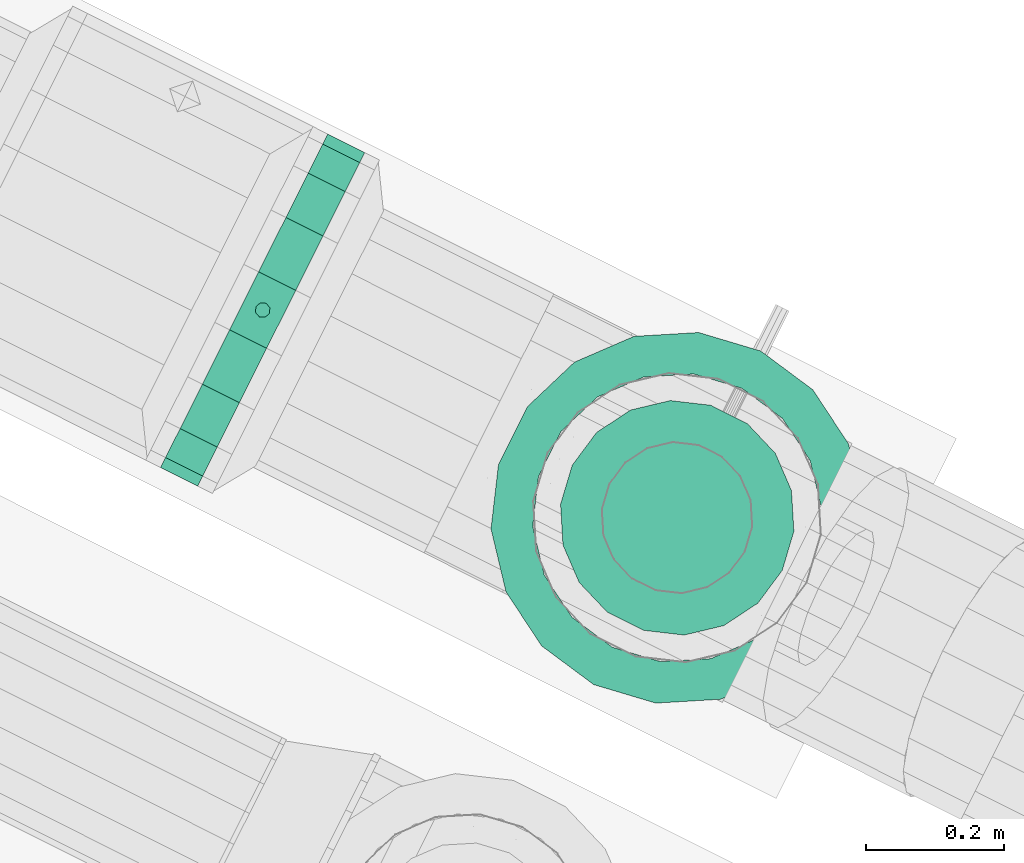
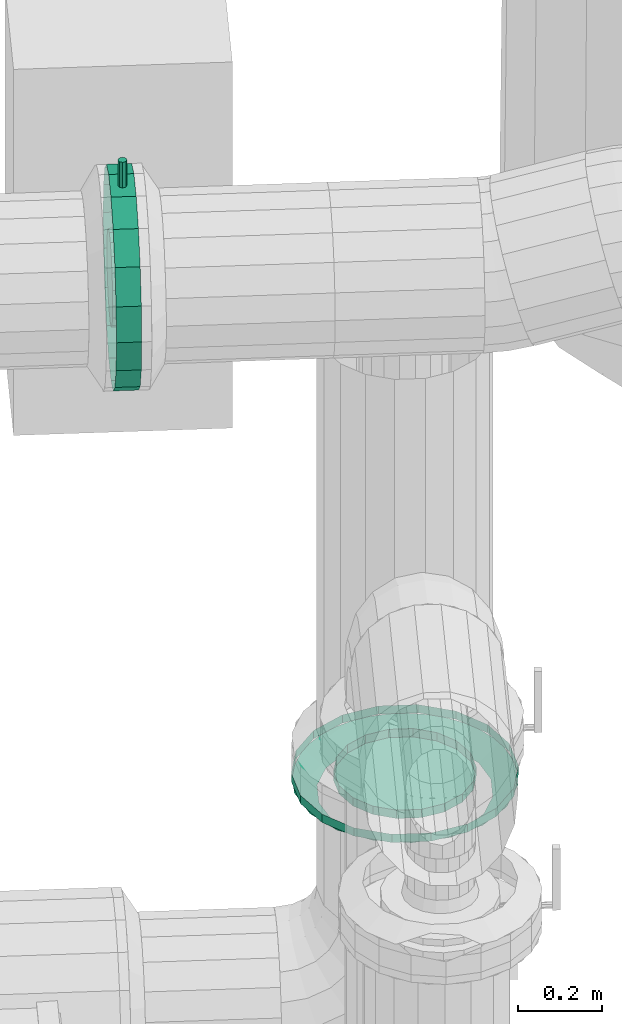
# One storey, part 139 of 152: 1 flow controller, 1 flow fitting.
"""IFC2X3 building model written with IfcOpenShell, lengths in metres."""

from ifc_helpers import new_model, si_unit, derived_unit, direction, frame, origin, place, context, subcontext, project, spatial, face_set, surface_model, source, transform, mapped, material, type_object, type_shapes, element, save


model = new_model("IFC2X3")

# Units and contexts
model_context = context("Model", 3, precision=5.2338327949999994e-05, world=origin(), true_north=direction((0.0, 1.0)))
body_context = subcontext(model_context, "Body", "Model", "MODEL_VIEW")
ifc_project = project(units=[si_unit("LENGTHUNIT", "METRE"), si_unit("AREAUNIT", "SQUARE_METRE"), si_unit("VOLUMEUNIT", "CUBIC_METRE"), si_unit("MASSUNIT", "GRAM", prefix="KILO"), si_unit("PLANEANGLEUNIT", "RADIAN"), derived_unit("THERMALTRANSMITTANCEUNIT", [(si_unit("MASSUNIT", "GRAM", prefix="KILO"), 1), (si_unit("THERMODYNAMICTEMPERATUREUNIT", "KELVIN"), -1), (si_unit("TIMEUNIT", "SECOND"), -3)])], contexts=[model_context])

# Site, building, storey
site_placement = place(None, frame((0.0, 0.0, 0.0), z_axis=(0.0, 0.0, 1.0), x_axis=(0.8939966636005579, -0.4480736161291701, 0.0)))
site = spatial("IfcSite", under=ifc_project, at=site_placement, Name="Default", CompositionType="ELEMENT")
building_placement = place(site_placement, origin())
building = spatial("IfcBuilding", under=site, at=building_placement, CompositionType="ELEMENT")
storey_placement = place(building_placement, frame((0.0, 0.0, 2.7499999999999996)))
storey = spatial("IfcBuildingStorey", under=building, at=storey_placement, Name="1. Obergeschoss", CompositionType="ELEMENT", Elevation=2.7499999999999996)

# Flow controller
ifc_material = material(Name="IfcSurfaceStyle #1741")
distribution_element_type_1 = type_object("IfcDistributionElementType", Name="Zwischenflanschklappe 5636:Zwischenflanschklappe 5636", material=ifc_material)
shared_shape_1 = source(origin(), body_context, "Body", "SurfaceModel", [
    surface_model("IfcFaceBasedSurfaceModel", [(11.084653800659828, 7.894708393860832, 5.553956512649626), (11.084653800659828, 7.901794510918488, 5.594143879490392), (11.064653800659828, 7.901794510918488, 5.594143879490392), (11.064653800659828, 7.894708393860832, 5.553956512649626), (11.084653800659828, 7.922198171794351, 5.6294840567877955), (11.064653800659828, 7.922198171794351, 5.6294840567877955), (11.084653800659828, 7.953458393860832, 5.6557144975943), (11.064653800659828, 7.953458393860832, 5.6557144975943), (11.084653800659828, 7.991804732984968, 5.669671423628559), (11.064653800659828, 7.991804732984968, 5.669671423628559), (11.084653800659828, 8.032612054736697, 5.66967142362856), (11.064653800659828, 8.032612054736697, 5.66967142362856), (11.084653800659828, 8.070958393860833, 5.655714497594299), (11.064653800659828, 8.070958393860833, 5.655714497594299), (11.084653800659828, 8.102218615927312, 5.629484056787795), (11.064653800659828, 8.102218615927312, 5.629484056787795), (11.084653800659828, 8.122622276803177, 5.594143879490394), (11.064653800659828, 8.122622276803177, 5.594143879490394), (11.084653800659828, 8.129708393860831, 5.553956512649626), (11.064653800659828, 8.129708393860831, 5.553956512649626), (11.084653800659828, 8.122622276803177, 5.51376914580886), (11.064653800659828, 8.122622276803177, 5.51376914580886), (11.084653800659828, 8.102218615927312, 5.478428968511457), (11.064653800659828, 8.102218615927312, 5.478428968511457), (11.084653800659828, 8.070958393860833, 5.452198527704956), (11.064653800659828, 8.070958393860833, 5.452198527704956), (11.084653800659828, 8.032612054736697, 5.438241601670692), (11.064653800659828, 8.032612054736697, 5.438241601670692), (11.084653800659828, 7.991804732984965, 5.438241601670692), (11.064653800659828, 7.991804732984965, 5.438241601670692), (11.084653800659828, 7.9534583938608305, 5.4521985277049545), (11.064653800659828, 7.9534583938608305, 5.4521985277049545), (11.084653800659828, 7.922198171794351, 5.478428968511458), (11.064653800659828, 7.922198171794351, 5.478428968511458), (11.084653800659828, 7.901794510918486, 5.51376914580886), (11.064653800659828, 7.901794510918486, 5.51376914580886), (11.084653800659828, 8.012208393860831, 5.553956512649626), (11.064653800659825, 8.012208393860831, 5.553956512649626), (11.064653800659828, 7.842208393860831, 5.553956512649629), (11.064653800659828, 7.852460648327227, 5.61209993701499), (11.044653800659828, 7.852460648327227, 5.61209993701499), (11.044653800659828, 7.842208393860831, 5.553956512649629), (11.064653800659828, 7.881980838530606, 5.663230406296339), (11.044653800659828, 7.881980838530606, 5.663230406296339), (11.064653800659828, 7.927208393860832, 5.701180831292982), (11.044653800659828, 7.927208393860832, 5.701180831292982), (11.064653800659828, 7.982688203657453, 5.721373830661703), (11.044653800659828, 7.982688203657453, 5.721373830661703), (11.064653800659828, 8.041728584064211, 5.721373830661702), (11.044653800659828, 8.041728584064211, 5.721373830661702), (11.064653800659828, 8.097208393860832, 5.701180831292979), (11.044653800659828, 8.097208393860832, 5.701180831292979), (11.064653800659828, 8.142435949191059, 5.6632304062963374), (11.044653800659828, 8.142435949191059, 5.6632304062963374), (11.064653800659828, 8.171956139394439, 5.612099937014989), (11.044653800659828, 8.171956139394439, 5.612099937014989), (11.064653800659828, 8.182208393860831, 5.553956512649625), (11.044653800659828, 8.182208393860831, 5.553956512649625), (11.064653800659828, 8.171956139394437, 5.495813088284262), (11.044653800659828, 8.171956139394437, 5.495813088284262), (11.064653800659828, 8.142435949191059, 5.444682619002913), (11.044653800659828, 8.142435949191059, 5.444682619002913), (11.064653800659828, 8.09720839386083, 5.406732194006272), (11.044653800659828, 8.09720839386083, 5.406732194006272), (11.064653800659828, 8.04172858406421, 5.386539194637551), (11.044653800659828, 8.04172858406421, 5.386539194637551), (11.064653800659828, 7.982688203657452, 5.386539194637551), (11.044653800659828, 7.982688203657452, 5.386539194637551), (11.064653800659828, 7.927208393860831, 5.406732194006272), (11.044653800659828, 7.927208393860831, 5.406732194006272), (11.064653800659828, 7.881980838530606, 5.444682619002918), (11.044653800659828, 7.881980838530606, 5.444682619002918), (11.064653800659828, 7.852460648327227, 5.4958130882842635), (11.044653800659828, 7.852460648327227, 5.4958130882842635), (11.044653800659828, 8.012208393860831, 5.553956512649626), (11.044653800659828, 7.89470839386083, 5.553956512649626), (11.044653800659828, 7.901794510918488, 5.594143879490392), (11.024653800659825, 7.901794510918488, 5.594143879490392), (11.024653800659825, 7.89470839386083, 5.553956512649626), (11.044653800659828, 7.922198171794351, 5.6294840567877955), (11.024653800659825, 7.922198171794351, 5.6294840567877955), (11.044653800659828, 7.953458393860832, 5.6557144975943), (11.024653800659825, 7.953458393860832, 5.6557144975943), (11.044653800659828, 7.991804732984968, 5.669671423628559), (11.024653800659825, 7.991804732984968, 5.669671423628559), (11.044653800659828, 8.032612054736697, 5.66967142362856), (11.024653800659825, 8.032612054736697, 5.66967142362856), (11.044653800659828, 8.070958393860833, 5.655714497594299), (11.024653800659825, 8.070958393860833, 5.655714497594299), (11.044653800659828, 8.102218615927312, 5.629484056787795), (11.024653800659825, 8.102218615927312, 5.629484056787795), (11.044653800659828, 8.122622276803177, 5.594143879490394), (11.024653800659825, 8.122622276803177, 5.594143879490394), (11.044653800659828, 8.129708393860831, 5.553956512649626), (11.024653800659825, 8.129708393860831, 5.553956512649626), (11.044653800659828, 8.122622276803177, 5.51376914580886), (11.024653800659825, 8.122622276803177, 5.51376914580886), (11.044653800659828, 8.102218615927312, 5.478428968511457), (11.024653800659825, 8.102218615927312, 5.478428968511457), (11.044653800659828, 8.070958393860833, 5.452198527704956), (11.024653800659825, 8.070958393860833, 5.452198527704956), (11.044653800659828, 8.032612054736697, 5.438241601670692), (11.024653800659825, 8.032612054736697, 5.438241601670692), (11.044653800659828, 7.991804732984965, 5.438241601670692), (11.024653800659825, 7.991804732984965, 5.438241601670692), (11.044653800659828, 7.9534583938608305, 5.4521985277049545), (11.024653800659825, 7.9534583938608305, 5.4521985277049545), (11.044653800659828, 7.922198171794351, 5.478428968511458), (11.024653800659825, 7.922198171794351, 5.478428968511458), (11.044653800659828, 7.901794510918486, 5.51376914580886), (11.024653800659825, 7.901794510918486, 5.51376914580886), (11.024653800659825, 8.012208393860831, 5.553956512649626), (11.054653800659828, 8.00220839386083, 5.553956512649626), (11.058074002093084, 8.002811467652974, 5.553956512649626), (11.058074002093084, 8.002811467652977, 5.808956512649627), (11.054653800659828, 8.002208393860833, 5.808956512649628), (11.061081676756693, 8.004547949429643, 5.553956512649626), (11.061081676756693, 8.004547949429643, 5.808956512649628), (11.06331405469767, 8.007208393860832, 5.553956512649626), (11.063314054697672, 8.007208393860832, 5.808956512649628), (11.064501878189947, 8.010471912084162, 5.553956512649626), (11.064501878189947, 8.010471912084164, 5.808956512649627), (11.064501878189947, 8.013944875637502, 5.553956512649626), (11.064501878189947, 8.013944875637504, 5.808956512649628), (11.06331405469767, 8.017208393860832, 5.553956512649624), (11.06331405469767, 8.017208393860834, 5.808956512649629), (11.061081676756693, 8.019868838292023, 5.553956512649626), (11.061081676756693, 8.019868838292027, 5.808956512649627), (11.058074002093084, 8.021605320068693, 5.553956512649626), (11.058074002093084, 8.021605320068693, 5.808956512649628), (11.054653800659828, 8.02220839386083, 5.553956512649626), (11.054653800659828, 8.022208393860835, 5.808956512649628), (11.05123359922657, 8.021605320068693, 5.553956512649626), (11.05123359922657, 8.021605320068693, 5.808956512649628), (11.048225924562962, 8.019868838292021, 5.553956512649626), (11.048225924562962, 8.019868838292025, 5.808956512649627), (11.045993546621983, 8.017208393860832, 5.553956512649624), (11.045993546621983, 8.017208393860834, 5.808956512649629), (11.044805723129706, 8.013944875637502, 5.553956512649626), (11.044805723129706, 8.013944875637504, 5.808956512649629), (11.044805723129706, 8.010471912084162, 5.553956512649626), (11.044805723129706, 8.010471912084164, 5.808956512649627), (11.045993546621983, 8.007208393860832, 5.553956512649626), (11.045993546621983, 8.007208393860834, 5.808956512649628), (11.048225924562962, 8.004547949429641, 5.553956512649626), (11.048225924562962, 8.004547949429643, 5.808956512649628), (11.05123359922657, 8.002811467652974, 5.553956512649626), (11.05123359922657, 8.002811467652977, 5.808956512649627), (11.054653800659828, 8.012208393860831, 5.553956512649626), (11.054653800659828, 8.012208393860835, 5.808956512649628), (11.054653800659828, 8.001253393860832, 5.808956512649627), (11.062400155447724, 8.004462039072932, 5.808956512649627), (11.062400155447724, 8.004462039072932, 5.893956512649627), (11.054653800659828, 8.001253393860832, 5.893956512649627), (11.065608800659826, 8.012208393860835, 5.808956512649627), (11.065608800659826, 8.012208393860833, 5.893956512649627), (11.062400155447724, 8.019954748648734, 5.808956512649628), (11.062400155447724, 8.019954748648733, 5.893956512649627), (11.054653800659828, 8.023163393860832, 5.808956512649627), (11.054653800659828, 8.023163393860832, 5.893956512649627), (11.046907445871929, 8.019954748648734, 5.808956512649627), (11.046907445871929, 8.019954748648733, 5.893956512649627), (11.043698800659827, 8.012208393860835, 5.808956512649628), (11.043698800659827, 8.012208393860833, 5.893956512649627), (11.046907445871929, 8.004462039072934, 5.808956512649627), (11.046907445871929, 8.004462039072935, 5.893956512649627), (11.054653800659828, 8.012208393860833, 5.893956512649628), (11.084653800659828, 7.742208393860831, 5.553956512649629), (11.084653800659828, 7.758491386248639, 5.646301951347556), (11.024653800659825, 7.758491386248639, 5.646301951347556), (11.024653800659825, 7.742208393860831, 5.553956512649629), (11.084653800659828, 7.805376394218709, 5.7275091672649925), (11.024653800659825, 7.805376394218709, 5.7275091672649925), (11.084653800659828, 7.877208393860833, 5.787783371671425), (11.024653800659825, 7.877208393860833, 5.787783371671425), (11.084653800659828, 7.965323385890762, 5.819854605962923), (11.024653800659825, 7.965323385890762, 5.819854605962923), (11.084653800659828, 8.059093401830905, 5.819854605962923), (11.024653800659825, 8.059093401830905, 5.819854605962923), (11.084653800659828, 8.147208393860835, 5.787783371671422), (11.024653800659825, 8.147208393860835, 5.787783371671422), (11.084653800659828, 8.219040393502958, 5.72750916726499), (11.024653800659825, 8.219040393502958, 5.72750916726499), (11.084653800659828, 8.265925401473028, 5.646301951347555), (11.024653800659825, 8.265925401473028, 5.646301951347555), (11.084653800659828, 8.28220839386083, 5.553956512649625), (11.024653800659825, 8.28220839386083, 5.553956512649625), (11.084653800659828, 8.265925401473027, 5.461611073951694), (11.024653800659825, 8.265925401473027, 5.461611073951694), (11.084653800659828, 8.219040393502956, 5.380403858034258), (11.024653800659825, 8.219040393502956, 5.380403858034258), (11.084653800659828, 8.14720839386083, 5.320129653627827), (11.024653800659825, 8.14720839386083, 5.320129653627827), (11.084653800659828, 8.059093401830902, 5.288058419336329), (11.024653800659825, 8.059093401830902, 5.288058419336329), (11.084653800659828, 7.96532338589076, 5.28805841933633), (11.024653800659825, 7.96532338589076, 5.28805841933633), (11.084653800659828, 7.87720839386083, 5.320129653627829), (11.024653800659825, 7.87720839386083, 5.320129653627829), (11.084653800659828, 7.805376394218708, 5.380403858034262), (11.024653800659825, 7.805376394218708, 5.380403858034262), (11.084653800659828, 7.758491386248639, 5.461611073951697), (11.024653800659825, 7.758491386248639, 5.461611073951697)], [face_set([[[0, 1, 2, 3]], [[1, 4, 5, 2]], [[4, 6, 7, 5]], [[6, 8, 9, 7]], [[8, 10, 11, 9]], [[10, 12, 13, 11]], [[12, 14, 15, 13]], [[14, 16, 17, 15]], [[16, 18, 19, 17]], [[18, 20, 21, 19]], [[20, 22, 23, 21]], [[22, 24, 25, 23]], [[24, 26, 27, 25]], [[26, 28, 29, 27]], [[28, 30, 31, 29]], [[30, 32, 33, 31]], [[32, 34, 35, 33]], [[34, 0, 3, 35]], [[36, 1, 0]], [[36, 4, 1]], [[36, 6, 4]], [[36, 8, 6]], [[36, 10, 8]], [[36, 12, 10]], [[36, 14, 12]], [[36, 16, 14]], [[36, 18, 16]], [[36, 20, 18]], [[36, 22, 20]], [[36, 24, 22]], [[36, 26, 24]], [[36, 28, 26]], [[36, 30, 28]], [[36, 32, 30]], [[36, 34, 32]], [[36, 0, 34]], [[37, 35, 3]], [[37, 33, 35]], [[37, 31, 33]], [[37, 29, 31]], [[37, 27, 29]], [[37, 25, 27]], [[37, 23, 25]], [[37, 21, 23]], [[37, 19, 21]], [[37, 17, 19]], [[37, 15, 17]], [[37, 13, 15]], [[37, 11, 13]], [[37, 9, 11]], [[37, 7, 9]], [[37, 5, 7]], [[37, 2, 5]], [[37, 3, 2]], [[38, 39, 40, 41]], [[39, 42, 43, 40]], [[42, 44, 45, 43]], [[44, 46, 47, 45]], [[46, 48, 49, 47]], [[48, 50, 51, 49]], [[50, 52, 53, 51]], [[52, 54, 55, 53]], [[54, 56, 57, 55]], [[56, 58, 59, 57]], [[58, 60, 61, 59]], [[60, 62, 63, 61]], [[62, 64, 65, 63]], [[64, 66, 67, 65]], [[66, 68, 69, 67]], [[68, 70, 71, 69]], [[70, 72, 73, 71]], [[72, 38, 41, 73]], [[37, 39, 38]], [[37, 42, 39]], [[37, 44, 42]], [[37, 46, 44]], [[37, 48, 46]], [[37, 50, 48]], [[37, 52, 50]], [[37, 54, 52]], [[37, 56, 54]], [[37, 58, 56]], [[37, 60, 58]], [[37, 62, 60]], [[37, 64, 62]], [[37, 66, 64]], [[37, 68, 66]], [[37, 70, 68]], [[37, 72, 70]], [[37, 38, 72]], [[74, 73, 41]], [[74, 71, 73]], [[74, 69, 71]], [[74, 67, 69]], [[74, 65, 67]], [[74, 63, 65]], [[74, 61, 63]], [[74, 59, 61]], [[74, 57, 59]], [[74, 55, 57]], [[74, 53, 55]], [[74, 51, 53]], [[74, 49, 51]], [[74, 47, 49]], [[74, 45, 47]], [[74, 43, 45]], [[74, 40, 43]], [[74, 41, 40]], [[75, 76, 77, 78]], [[76, 79, 80, 77]], [[79, 81, 82, 80]], [[81, 83, 84, 82]], [[83, 85, 86, 84]], [[85, 87, 88, 86]], [[87, 89, 90, 88]], [[89, 91, 92, 90]], [[91, 93, 94, 92]], [[93, 95, 96, 94]], [[95, 97, 98, 96]], [[97, 99, 100, 98]], [[99, 101, 102, 100]], [[101, 103, 104, 102]], [[103, 105, 106, 104]], [[105, 107, 108, 106]], [[107, 109, 110, 108]], [[109, 75, 78, 110]], [[74, 76, 75]], [[74, 79, 76]], [[74, 81, 79]], [[74, 83, 81]], [[74, 85, 83]], [[74, 87, 85]], [[74, 89, 87]], [[74, 91, 89]], [[74, 93, 91]], [[74, 95, 93]], [[74, 97, 95]], [[74, 99, 97]], [[74, 101, 99]], [[74, 103, 101]], [[74, 105, 103]], [[74, 107, 105]], [[74, 109, 107]], [[74, 75, 109]], [[111, 110, 78]], [[111, 108, 110]], [[111, 106, 108]], [[111, 104, 106]], [[111, 102, 104]], [[111, 100, 102]], [[111, 98, 100]], [[111, 96, 98]], [[111, 94, 96]], [[111, 92, 94]], [[111, 90, 92]], [[111, 88, 90]], [[111, 86, 88]], [[111, 84, 86]], [[111, 82, 84]], [[111, 80, 82]], [[111, 77, 80]], [[111, 78, 77]], [[112, 113, 114, 115]], [[113, 116, 117, 114]], [[116, 118, 119, 117]], [[118, 120, 121, 119]], [[120, 122, 123, 121]], [[122, 124, 125, 123]], [[124, 126, 127, 125]], [[126, 128, 129, 127]], [[128, 130, 131, 129]], [[130, 132, 133, 131]], [[132, 134, 135, 133]], [[134, 136, 137, 135]], [[136, 138, 139, 137]], [[138, 140, 141, 139]], [[140, 142, 143, 141]], [[142, 144, 145, 143]], [[144, 146, 147, 145]], [[146, 112, 115, 147]], [[148, 113, 112]], [[148, 116, 113]], [[148, 118, 116]], [[148, 120, 118]], [[148, 122, 120]], [[148, 124, 122]], [[148, 126, 124]], [[148, 128, 126]], [[148, 130, 128]], [[148, 132, 130]], [[148, 134, 132]], [[148, 136, 134]], [[148, 138, 136]], [[148, 140, 138]], [[148, 142, 140]], [[148, 144, 142]], [[148, 146, 144]], [[148, 112, 146]], [[149, 147, 115]], [[149, 145, 147]], [[149, 143, 145]], [[149, 141, 143]], [[149, 139, 141]], [[149, 137, 139]], [[149, 135, 137]], [[149, 133, 135]], [[149, 131, 133]], [[149, 129, 131]], [[149, 127, 129]], [[149, 125, 127]], [[149, 123, 125]], [[149, 121, 123]], [[149, 119, 121]], [[149, 117, 119]], [[149, 114, 117]], [[149, 115, 114]], [[150, 151, 152, 153]], [[151, 154, 155, 152]], [[154, 156, 157, 155]], [[156, 158, 159, 157]], [[158, 160, 161, 159]], [[160, 162, 163, 161]], [[162, 164, 165, 163]], [[164, 150, 153, 165]], [[166, 165, 153]], [[166, 163, 165]], [[166, 161, 163]], [[166, 159, 161]], [[166, 157, 159]], [[166, 155, 157]], [[166, 152, 155]], [[166, 153, 152]], [[167, 168, 169, 170]], [[168, 171, 172, 169]], [[171, 173, 174, 172]], [[173, 175, 176, 174]], [[175, 177, 178, 176]], [[177, 179, 180, 178]], [[179, 181, 182, 180]], [[181, 183, 184, 182]], [[183, 185, 186, 184]], [[185, 187, 188, 186]], [[187, 189, 190, 188]], [[189, 191, 192, 190]], [[191, 193, 194, 192]], [[193, 195, 196, 194]], [[195, 197, 198, 196]], [[197, 199, 200, 198]], [[199, 201, 202, 200]], [[201, 167, 170, 202]]])]),
])
type_shapes(distribution_element_type_1, [shared_shape_1])
flow_controller_placement = place(storey_placement, frame((0.0, 0.0, -2.7499999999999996)))
element("IfcFlowController", 1, at=flow_controller_placement, inside=storey, type_object=distribution_element_type_1, material=ifc_material, Name="Zwischenflanschklappe", ObjectType="Zwischenflanschklappe", context=body_context, shape_type="MappedRepresentation", body=[
    mapped(shared_shape_1, transform((0.0, 0.0, 0.0), scale=1.0)),
])

# Flow fitting
distribution_element_type_2 = type_object("IfcDistributionElementType", Name="Flansch 5686:Flansch 5686", material=ifc_material)
shared_shape_2 = source(origin(), body_context, "Body", "SurfaceModel", [
    surface_model("IfcFaceBasedSurfaceModel", [(11.895814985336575, 8.012208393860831, 4.101028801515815), (11.885562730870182, 7.9540649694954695, 4.101028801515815), (11.885562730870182, 7.9540649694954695, 4.077028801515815), (11.895814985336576, 8.012208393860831, 4.077028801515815), (11.856042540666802, 7.902934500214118, 4.101028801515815), (11.856042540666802, 7.902934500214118, 4.077028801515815), (11.810814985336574, 7.864984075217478, 4.101028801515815), (11.810814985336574, 7.864984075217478, 4.077028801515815), (11.755335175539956, 7.8447910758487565, 4.101028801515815), (11.755335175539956, 7.8447910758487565, 4.077028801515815), (11.696294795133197, 7.844791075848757, 4.101028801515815), (11.696294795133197, 7.844791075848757, 4.077028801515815), (11.640814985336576, 7.8649840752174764, 4.101028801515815), (11.640814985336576, 7.8649840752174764, 4.077028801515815), (11.595587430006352, 7.90293450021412, 4.101028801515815), (11.595587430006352, 7.90293450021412, 4.077028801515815), (11.566067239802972, 7.954064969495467, 4.101028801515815), (11.566067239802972, 7.954064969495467, 4.077028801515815), (11.555814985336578, 8.012208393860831, 4.101028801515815), (11.555814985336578, 8.012208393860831, 4.077028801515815), (11.566067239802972, 8.070351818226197, 4.101028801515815), (11.566067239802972, 8.070351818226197, 4.077028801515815), (11.595587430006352, 8.121482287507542, 4.101028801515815), (11.595587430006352, 8.121482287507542, 4.077028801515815), (11.640814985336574, 8.159432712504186, 4.101028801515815), (11.640814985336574, 8.159432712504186, 4.077028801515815), (11.6962947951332, 8.179625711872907, 4.101028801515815), (11.6962947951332, 8.179625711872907, 4.077028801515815), (11.755335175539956, 8.179625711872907, 4.101028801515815), (11.755335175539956, 8.179625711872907, 4.077028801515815), (11.810814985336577, 8.159432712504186, 4.101028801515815), (11.810814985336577, 8.159432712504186, 4.077028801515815), (11.8560425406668, 8.121482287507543, 4.101028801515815), (11.8560425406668, 8.121482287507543, 4.077028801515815), (11.885562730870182, 8.070351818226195, 4.101028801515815), (11.885562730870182, 8.070351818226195, 4.077028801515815), (11.725814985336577, 8.012208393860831, 4.077028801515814), (11.725814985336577, 8.129708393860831, 4.077028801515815), (11.766002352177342, 8.122622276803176, 4.077028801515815), (11.763283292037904, 8.11515172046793, 4.039028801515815), (11.725814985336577, 8.121758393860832, 4.039028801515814), (11.801342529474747, 8.102218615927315, 4.077028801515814), (11.796232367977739, 8.096128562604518, 4.039028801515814), (11.827572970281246, 8.070958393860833, 4.077028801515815), (11.82068806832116, 8.06698339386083, 4.039028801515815), (11.841529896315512, 8.032612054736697, 4.077028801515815), (11.833700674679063, 8.031231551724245, 4.039028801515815), (11.841529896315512, 7.991804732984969, 4.077028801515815), (11.833700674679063, 7.9931852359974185, 4.039028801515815), (11.827572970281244, 7.953458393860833, 4.077028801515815), (11.820688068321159, 7.957433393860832, 4.039028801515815), (11.801342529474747, 7.92219817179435, 4.077028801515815), (11.796232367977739, 7.928288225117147, 4.039028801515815), (11.766002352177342, 7.901794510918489, 4.077028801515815), (11.763283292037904, 7.909265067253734, 4.039028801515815), (11.725814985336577, 7.894708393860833, 4.077028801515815), (11.725814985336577, 7.902658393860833, 4.039028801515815), (11.68562761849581, 7.901794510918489, 4.077028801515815), (11.688346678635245, 7.909265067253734, 4.039028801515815), (11.650287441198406, 7.922198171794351, 4.077028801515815), (11.655397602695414, 7.928288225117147, 4.039028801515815), (11.624057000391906, 7.9534583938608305, 4.077028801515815), (11.630941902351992, 7.957433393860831, 4.039028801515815), (11.610100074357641, 7.991804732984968, 4.077028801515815), (11.617929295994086, 7.993185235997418, 4.039028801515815), (11.610100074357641, 8.032612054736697, 4.077028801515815), (11.617929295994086, 8.031231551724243, 4.039028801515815), (11.624057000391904, 8.070958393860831, 4.077028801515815), (11.630941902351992, 8.06698339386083, 4.039028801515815), (11.650287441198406, 8.102218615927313, 4.077028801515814), (11.655397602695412, 8.096128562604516, 4.039028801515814), (11.68562761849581, 8.122622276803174, 4.077028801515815), (11.688346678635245, 8.115151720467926, 4.039028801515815), (11.995814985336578, 8.012208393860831, 4.101028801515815), (11.97953199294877, 7.919862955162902, 4.101028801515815), (11.97953199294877, 7.919862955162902, 4.077028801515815), (11.995814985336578, 8.012208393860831, 4.077028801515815), (11.932646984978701, 7.838655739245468, 4.101028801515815), (11.932646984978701, 7.838655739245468, 4.077028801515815), (11.860814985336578, 7.778381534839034, 4.101028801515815), (11.860814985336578, 7.778381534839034, 4.077028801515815), (11.772699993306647, 7.746310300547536, 4.101028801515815), (11.772699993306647, 7.746310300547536, 4.077028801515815), (11.678929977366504, 7.746310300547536, 4.101028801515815), (11.678929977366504, 7.746310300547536, 4.077028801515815), (11.590814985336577, 7.778381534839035, 4.101028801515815), (11.590814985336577, 7.778381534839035, 4.077028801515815), (11.518982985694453, 7.838655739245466, 4.101028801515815), (11.518982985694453, 7.838655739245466, 4.077028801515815), (11.472097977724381, 7.919862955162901, 4.101028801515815), (11.472097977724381, 7.919862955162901, 4.077028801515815), (11.455814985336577, 8.012208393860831, 4.101028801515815), (11.455814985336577, 8.012208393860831, 4.077028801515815), (11.472097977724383, 8.104553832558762, 4.101028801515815), (11.472097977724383, 8.104553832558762, 4.077028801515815), (11.518982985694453, 8.185761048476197, 4.101028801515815), (11.518982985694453, 8.185761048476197, 4.077028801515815), (11.590814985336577, 8.246035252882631, 4.101028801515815), (11.590814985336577, 8.246035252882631, 4.077028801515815), (11.678929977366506, 8.27810648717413, 4.101028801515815), (11.678929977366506, 8.27810648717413, 4.077028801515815), (11.772699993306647, 8.278106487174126, 4.101028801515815), (11.772699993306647, 8.278106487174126, 4.077028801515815), (11.860814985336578, 8.24603525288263, 4.101028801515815), (11.860814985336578, 8.24603525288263, 4.077028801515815), (11.932646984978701, 8.1857610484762, 4.101028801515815), (11.932646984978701, 8.1857610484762, 4.077028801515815), (11.97953199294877, 8.104553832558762, 4.101028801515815), (11.97953199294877, 8.104553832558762, 4.077028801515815), (11.725814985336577, 8.28220839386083, 4.077028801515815), (11.818160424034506, 8.265925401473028, 4.077028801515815), (11.79748530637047, 8.20912098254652, 4.039028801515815), (11.725814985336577, 8.22175839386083, 4.039028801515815), (11.899367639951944, 8.219040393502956, 4.077028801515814), (11.860511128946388, 8.172733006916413, 4.039028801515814), (11.959641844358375, 8.147208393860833, 4.077028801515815), (11.907290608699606, 8.116983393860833, 4.039028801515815), (11.991713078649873, 8.059093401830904, 4.077028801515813), (11.932181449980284, 8.048596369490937, 4.039028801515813), (11.991713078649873, 7.965323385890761, 4.077028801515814), (11.932181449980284, 7.975820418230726, 4.039028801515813), (11.959641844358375, 7.8772083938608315, 4.077028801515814), (11.907290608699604, 7.907433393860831, 4.039028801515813), (11.899367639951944, 7.805376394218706, 4.077028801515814), (11.860511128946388, 7.851683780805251, 4.039028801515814), (11.818160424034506, 7.758491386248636, 4.077028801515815), (11.79748530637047, 7.815295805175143, 4.039028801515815), (11.725814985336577, 7.742208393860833, 4.077028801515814), (11.725814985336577, 7.80265839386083, 4.039028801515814), (11.633469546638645, 7.758491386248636, 4.077028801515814), (11.654144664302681, 7.815295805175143, 4.039028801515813), (11.55226233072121, 7.8053763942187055, 4.077028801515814), (11.591118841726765, 7.85168378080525, 4.039028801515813), (11.491988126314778, 7.8772083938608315, 4.077028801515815), (11.544339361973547, 7.907433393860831, 4.039028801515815), (11.45991689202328, 7.965323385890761, 4.077028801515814), (11.519448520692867, 7.975820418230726, 4.039028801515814), (11.45991689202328, 8.059093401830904, 4.077028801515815), (11.519448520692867, 8.048596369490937, 4.039028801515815), (11.491988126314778, 8.147208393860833, 4.077028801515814), (11.544339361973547, 8.11698339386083, 4.039028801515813), (11.55226233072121, 8.219040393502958, 4.077028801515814), (11.591118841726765, 8.172733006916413, 4.039028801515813), (11.633469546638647, 8.265925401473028, 4.077028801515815), (11.654144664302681, 8.209120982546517, 4.039028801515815)], [face_set([[[0, 1, 2, 3]], [[1, 4, 5, 2]], [[4, 6, 7, 5]], [[6, 8, 9, 7]], [[8, 10, 11, 9]], [[10, 12, 13, 11]], [[12, 14, 15, 13]], [[14, 16, 17, 15]], [[16, 18, 19, 17]], [[18, 20, 21, 19]], [[20, 22, 23, 21]], [[22, 24, 25, 23]], [[24, 26, 27, 25]], [[26, 28, 29, 27]], [[28, 30, 31, 29]], [[30, 32, 33, 31]], [[32, 34, 35, 33]], [[34, 0, 3, 35]], [[36, 35, 3]], [[36, 33, 35]], [[36, 31, 33]], [[36, 29, 31]], [[36, 27, 29]], [[36, 25, 27]], [[36, 23, 25]], [[36, 21, 23]], [[36, 19, 21]], [[36, 17, 19]], [[36, 15, 17]], [[36, 13, 15]], [[36, 11, 13]], [[36, 9, 11]], [[36, 7, 9]], [[36, 5, 7]], [[36, 2, 5]], [[36, 3, 2]], [[37, 38, 39, 40]], [[38, 41, 42, 39]], [[41, 43, 44, 42]], [[43, 45, 46, 44]], [[45, 47, 48, 46]], [[47, 49, 50, 48]], [[49, 51, 52, 50]], [[51, 53, 54, 52]], [[53, 55, 56, 54]], [[55, 57, 58, 56]], [[57, 59, 60, 58]], [[59, 61, 62, 60]], [[61, 63, 64, 62]], [[63, 65, 66, 64]], [[65, 67, 68, 66]], [[67, 69, 70, 68]], [[69, 71, 72, 70]], [[71, 37, 40, 72]], [[73, 74, 75, 76]], [[74, 77, 78, 75]], [[77, 79, 80, 78]], [[79, 81, 82, 80]], [[81, 83, 84, 82]], [[83, 85, 86, 84]], [[85, 87, 88, 86]], [[87, 89, 90, 88]], [[89, 91, 92, 90]], [[91, 93, 94, 92]], [[93, 95, 96, 94]], [[95, 97, 98, 96]], [[97, 99, 100, 98]], [[99, 101, 102, 100]], [[101, 103, 104, 102]], [[103, 105, 106, 104]], [[105, 107, 108, 106]], [[107, 73, 76, 108]], [[109, 110, 111, 112]], [[110, 113, 114, 111]], [[113, 115, 116, 114]], [[115, 117, 118, 116]], [[117, 119, 120, 118]], [[119, 121, 122, 120]], [[121, 123, 124, 122]], [[123, 125, 126, 124]], [[125, 127, 128, 126]], [[127, 129, 130, 128]], [[129, 131, 132, 130]], [[131, 133, 134, 132]], [[133, 135, 136, 134]], [[135, 137, 138, 136]], [[137, 139, 140, 138]], [[139, 141, 142, 140]], [[141, 143, 144, 142]], [[143, 109, 112, 144]]])]),
])
type_shapes(distribution_element_type_2, [shared_shape_2])
flow_fitting_placement = place(storey_placement, frame((0.0, 0.0, -2.7499999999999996)))
element("IfcFlowFitting", 2, at=flow_fitting_placement, inside=storey, type_object=distribution_element_type_2, material=ifc_material, Name="Flansch", ObjectType="Flansch", context=body_context, shape_type="MappedRepresentation", body=[
    mapped(shared_shape_2, transform((0.0, 0.0, 0.0), scale=1.0)),
])

save(model, "model.ifc")
